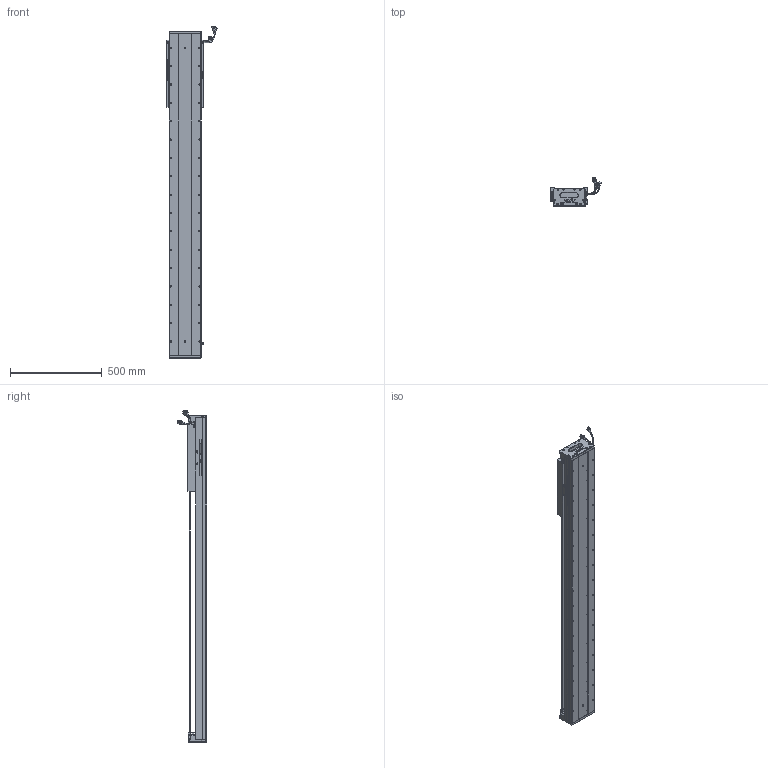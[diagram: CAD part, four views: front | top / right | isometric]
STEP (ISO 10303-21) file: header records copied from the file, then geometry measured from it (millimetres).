
FILE_DESCRIPTION (( 'STEP AP203' ), '1' );
FILE_NAME ('Z5-RY170D-1-L500-B-K.SLDASM_1300.step', '2021-05-18T00:40:33', ( '盈信电脑' ), ( '东莞市道滘镇水果街19号' ), 'SwSTEP 2.0', 'SolidWorks 2016', '' );
FILE_SCHEMA (( 'CONFIG_CONTROL_DESIGN' ));
Length unit declared in the file: millimetre
Products named in the file (36): 080黍杅芛假蚾釱21遴; PBU_SHEET; LABEL; Z5-RY170臏賑輸(21遴); SCREW-M1.6-1; HARNESS-Part-1; Z5-RY170-L500耀郪菁釱_1300; Z5-RY170-L500詩湍145mm遵_1300; HARNESS; Z-RY170詩湍狟揤裔; COVER; RY170直线电机感应器672光电感应片; Z5-RY170D-1-L500-B-K.SLDASM_1300; Z-170詩湍傷裔啣; SCREW-M1.6-3; SHIELDPLATE; SEAL; SCREW-M1.7-1; 榋妏寠巭燃_暯_M2_2; SCALE-Part-2; PSLH080_PSLF2; 140雄赽晤鎢ん堤盄; HARNESS-Part-2; Z-RY170詩湍奻揤裔; SCREW-M1.6; SCALE; COVER-Part-1; 140蚥薯蝶輸; 覜茼ん672; SEAL-Part-1; LABEL-Part-1; 170-Z-臏賑輸盄裔(21遴); SCREW-M1.6-2; SCREW-M1.7; SCALE-Part-1; HOLDER0
Assembly tree (41 placements, depth 4):
  Z5-RY170D-1-L500-B-K.SLDASM_1300
    Z5-RY170-L500耀郪菁釱_1300
    RY170直线电机感应器672光电感应片
    Z5-RY170臏賑輸(21遴)
    覜茼ん672  x3
    PSLH080_PSLF2
      SCALE
        SCALE-Part-1
        SCALE-Part-2
      HARNESS
        HARNESS-Part-1
        HARNESS-Part-2
      LABEL
        LABEL-Part-1
      COVER
        COVER-Part-1
      SEAL
        SEAL-Part-1
      榋妏寠巭燃_暯_M2_2
      SHIELDPLATE
      SCREW-M1.7
      SCREW-M1.7-1
      PBU_SHEET
      SCREW-M1.6
      SCREW-M1.6-1
      SCREW-M1.6-2
      SCREW-M1.6-3
      HOLDER0
    080黍杅芛假蚾釱21遴
    Z5-RY170-L500詩湍145mm遵_1300
    Z-170詩湍傷裔啣  x2
    Z-RY170詩湍奻揤裔  x2
    Z-RY170詩湍狟揤裔  x2
    140蚥薯蝶輸  x2
    170-Z-臏賑輸盄裔(21遴)
    140雄赽晤鎢ん堤盄
Bounding box: 275.33 x 158.11 x 1808.72 mm (x, y, z)
Volume: 10084505.4 mm3; surface area: 2396742.3 mm2
Topology: 36 solids, 36 shells, 3600 faces, 9793 edges, 6137 vertices
Faces by surface type: cylinder 1744, plane 1250, cone 484, torus 69, bspline 53
Entity records: 109549 total; most frequent: CARTESIAN_POINT 29024, ORIENTED_EDGE 16238, DIRECTION 15651, EDGE_CURVE 8119, AXIS2_PLACEMENT_3D 5778, VERTEX_POINT 5255, LINE 4095, VECTOR 4095
